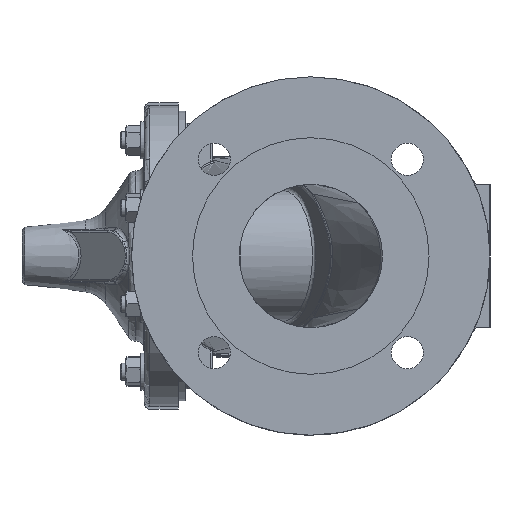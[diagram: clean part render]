
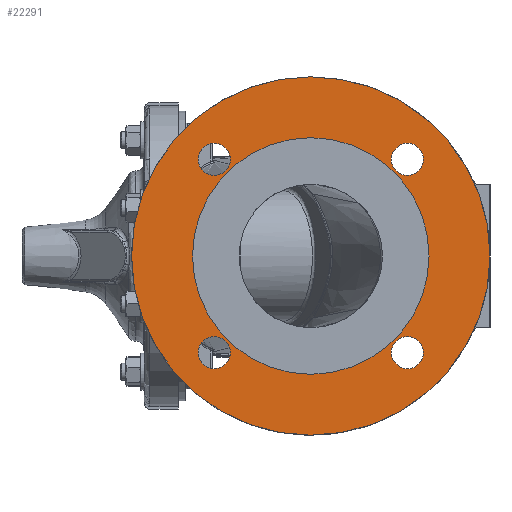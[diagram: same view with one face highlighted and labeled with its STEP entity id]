
A CAD part, left-side view. The second image highlights one B-rep face of the part: STEP entity #22291.
In plain terms, the highlighted planar face has unit normal (-1, 0, 0).
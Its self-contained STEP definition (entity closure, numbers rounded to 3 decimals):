
#4750=FACE_BOUND('',#6690,.T.);
#4751=FACE_BOUND('',#6691,.T.);
#4752=FACE_BOUND('',#6692,.T.);
#4753=FACE_BOUND('',#6693,.T.);
#4754=FACE_BOUND('',#6694,.T.);
#5298=FACE_OUTER_BOUND('',#6689,.T.);
#6689=EDGE_LOOP('',(#16767));
#6690=EDGE_LOOP('',(#16768));
#6691=EDGE_LOOP('',(#16769));
#6692=EDGE_LOOP('',(#16770));
#6693=EDGE_LOOP('',(#16771));
#6694=EDGE_LOOP('',(#16772));
#7665=CIRCLE('',#23243,100.);
#7982=CIRCLE('',#23853,9.);
#7983=CIRCLE('',#23855,9.);
#7984=CIRCLE('',#23857,9.);
#7985=CIRCLE('',#23859,9.);
#7986=CIRCLE('',#23861,66.);
#8585=VERTEX_POINT('',#30686);
#9389=VERTEX_POINT('',#43660);
#9390=VERTEX_POINT('',#43664);
#9391=VERTEX_POINT('',#43668);
#9392=VERTEX_POINT('',#43672);
#9393=VERTEX_POINT('',#43676);
#10830=EDGE_CURVE('',#8585,#8585,#7665,.T.);
#12086=EDGE_CURVE('',#9389,#9389,#7982,.T.);
#12088=EDGE_CURVE('',#9390,#9390,#7983,.T.);
#12090=EDGE_CURVE('',#9391,#9391,#7984,.T.);
#12092=EDGE_CURVE('',#9392,#9392,#7985,.T.);
#12094=EDGE_CURVE('',#9393,#9393,#7986,.T.);
#16767=ORIENTED_EDGE('',*,*,#10830,.F.);
#16768=ORIENTED_EDGE('',*,*,#12086,.T.);
#16769=ORIENTED_EDGE('',*,*,#12088,.T.);
#16770=ORIENTED_EDGE('',*,*,#12090,.T.);
#16771=ORIENTED_EDGE('',*,*,#12092,.T.);
#16772=ORIENTED_EDGE('',*,*,#12094,.F.);
#21414=PLANE('',#23863);
#22291=ADVANCED_FACE('',(#5298,#4750,#4751,#4752,#4753,#4754),#21414,.F.);
#23243=AXIS2_PLACEMENT_3D('',#30688,#25215,#25216);
#23853=AXIS2_PLACEMENT_3D('',#43661,#26771,#26772);
#23855=AXIS2_PLACEMENT_3D('',#43665,#26776,#26777);
#23857=AXIS2_PLACEMENT_3D('',#43669,#26781,#26782);
#23859=AXIS2_PLACEMENT_3D('',#43673,#26786,#26787);
#23861=AXIS2_PLACEMENT_3D('',#43677,#26791,#26792);
#23863=AXIS2_PLACEMENT_3D('',#43681,#26796,#26797);
#25215=DIRECTION('center_axis',(1.,0.,0.));
#25216=DIRECTION('ref_axis',(0.,0.,
-1.));
#26771=DIRECTION('center_axis',(1.,0.,0.));
#26772=DIRECTION('ref_axis',(0.,1.,0.));
#26776=DIRECTION('center_axis',(1.,0.,0.));
#26777=DIRECTION('ref_axis',(0.,0.,
-1.));
#26781=DIRECTION('center_axis',(1.,0.,0.));
#26782=DIRECTION('ref_axis',(0.,-1.,0.));
#26786=DIRECTION('center_axis',(1.,0.,0.));
#26787=DIRECTION('ref_axis',(0.,0.,
1.));
#26791=DIRECTION('center_axis',(-1.,0.,0.));
#26792=DIRECTION('ref_axis',(0.,0.,
-1.));
#26796=DIRECTION('center_axis',(1.,0.,0.));
#26797=DIRECTION('ref_axis',(0.,0.,
-1.));
#30686=CARTESIAN_POINT('',(-152.,-73.85,100.));
#30688=CARTESIAN_POINT('Origin',(-152.,-73.85,0.));
#43660=CARTESIAN_POINT('',(-152.,-136.767,53.917));
#43661=CARTESIAN_POINT('Origin',(-152.,-127.767,53.917));
#43664=CARTESIAN_POINT('',(-152.,-19.933,62.917));
#43665=CARTESIAN_POINT('Origin',(-152.,-19.933,53.917));
#43668=CARTESIAN_POINT('',(-152.,-10.933,-53.917));
#43669=CARTESIAN_POINT('Origin',(-152.,-19.933,-53.917));
#43672=CARTESIAN_POINT('',(-152.,-127.767,-62.917));
#43673=CARTESIAN_POINT('Origin',(-152.,-127.767,-53.917));
#43676=CARTESIAN_POINT('',(-152.,-73.85,66.));
#43677=CARTESIAN_POINT('Origin',(-152.,-73.85,0.));
#43681=CARTESIAN_POINT('Origin',(-152.,-73.85,0.));
